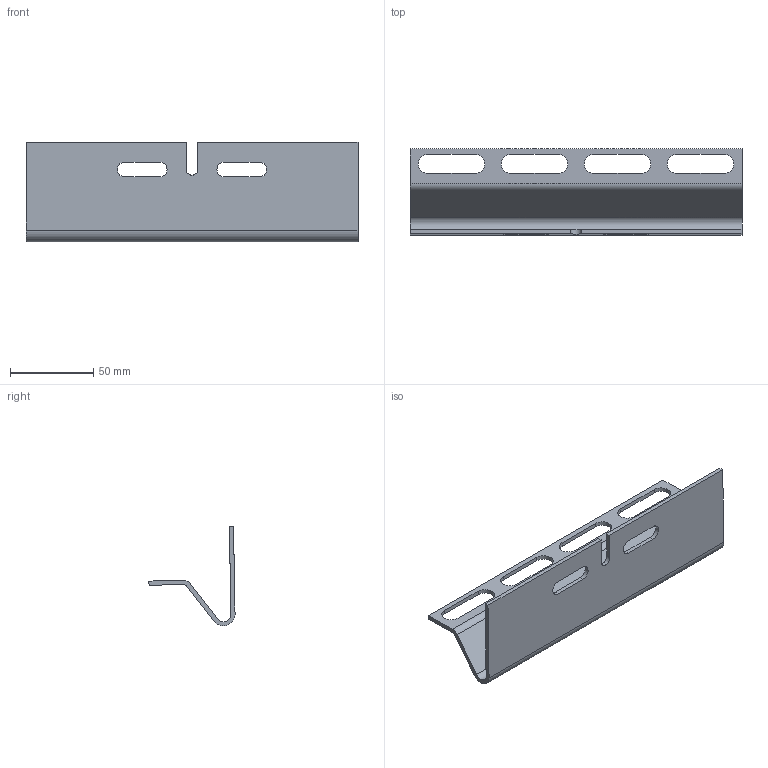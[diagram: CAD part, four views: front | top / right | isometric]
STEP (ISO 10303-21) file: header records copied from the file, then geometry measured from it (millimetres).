
FILE_DESCRIPTION(('Creo Elements/Direct Modeling STEP Export'),'2;1');
FILE_NAME('//pserver/office/EK/ME10-3D/3D-output/WPF 60.stp','2019-08-14T 9:36:24',(''),(''),'PTC Creo Elements/Direct Modeling STEP processor for AP214 (Solid Model)','PTC Creo Elements/Direct Modeling 19.0C 15-Aug-2015 (C) Parametric Technology GmbH','');
FILE_SCHEMA(('AUTOMOTIVE_DESIGN { 1 0 10303 214 1 1 1 1 }'));
Length unit declared in the file: millimetre
Products named in the file (1): WPF_60
Bounding box: 200 x 51.85 x 60.09 mm (x, y, z)
Volume: 53310.8 mm3; surface area: 45616 mm2
Topology: 1 solids, 1 shells, 42 faces, 120 edges, 80 vertices
Faces by surface type: plane 25, cylinder 17
Entity records: 1424 total; most frequent: CARTESIAN_POINT 243, DIRECTION 240, ORIENTED_EDGE 240, EDGE_CURVE 120, VECTOR 86, LINE 86, VERTEX_POINT 80, AXIS2_PLACEMENT_3D 77
